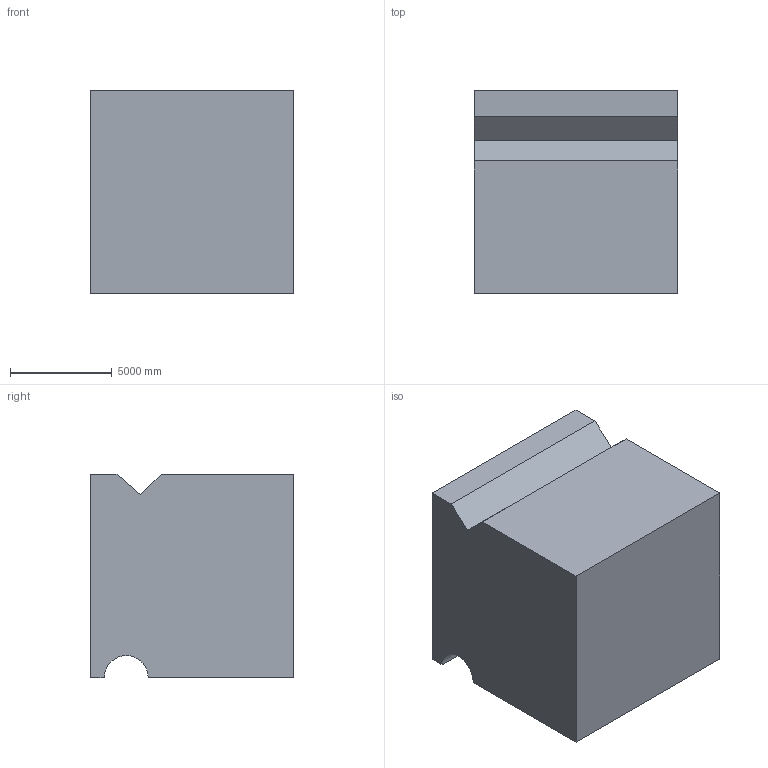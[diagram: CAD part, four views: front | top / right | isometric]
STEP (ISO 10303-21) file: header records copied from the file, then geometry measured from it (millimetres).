
FILE_DESCRIPTION (( 'STEP AP203' ), '1' );
FILE_NAME ('117.STEP', '2022-07-28T13:39:28', ( 'user' ), ( '' ), 'SwSTEP 2.0', 'SolidWorks 2021', '' );
FILE_SCHEMA (( 'CONFIG_CONTROL_DESIGN' ));
Length unit declared in the file: centimetre
Products named in the file (1): 117
Bounding box: 10000 x 10000 x 10000 mm (x, y, z)
Volume: 970669686553.4 mm3; surface area: 614433057.7 mm2
Topology: 1 solids, 1 shells, 12 faces, 30 edges, 20 vertices
Faces by surface type: plane 10, cylinder 2
Entity records: 435 total; most frequent: CARTESIAN_POINT 63, DIRECTION 60, ORIENTED_EDGE 60, EDGE_CURVE 30, LINE 26, VECTOR 26, VERTEX_POINT 20, AXIS2_PLACEMENT_3D 17
